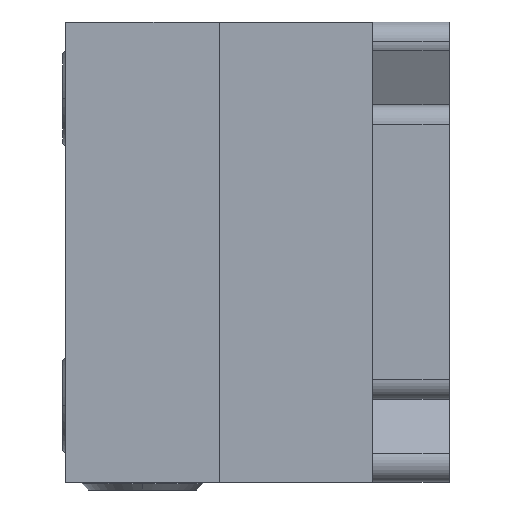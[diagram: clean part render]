
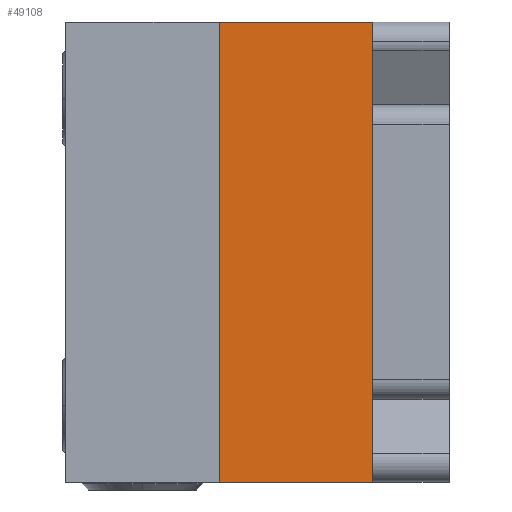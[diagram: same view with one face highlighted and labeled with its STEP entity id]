
A CAD part, left-side view. The second image highlights one B-rep face of the part: STEP entity #49108.
In plain terms, the highlighted planar face has unit normal (-1, 0, 0) as drawn and (0, 0, -1) by its records, which use the part's own axes.
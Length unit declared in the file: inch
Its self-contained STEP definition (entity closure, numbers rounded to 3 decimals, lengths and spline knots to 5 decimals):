
#623 = PLANE ( 'NONE',  #60691 ) ;
#624 = CARTESIAN_POINT ( 'NONE',  ( 0., 0.5, -0.375 ) ) ;
#625 = DIRECTION ( 'NONE',  ( 0., 0., 1. ) ) ;
#626 = DIRECTION ( 'NONE',  ( 1., 0., 0. ) ) ;
#3907 = FACE_OUTER_BOUND ( 'NONE', #23152, .T. ) ;
#3957 = EDGE_CURVE ( 'NONE', #9457, #9459, #39709, .T. ) ;
#4237 = EDGE_CURVE ( 'NONE', #10752, #9459, #52519, .T. ) ;
#4240 = EDGE_CURVE ( 'NONE', #10750, #9457, #52530, .T. ) ;
#4242 = EDGE_CURVE ( 'NONE', #10750, #10752, #52539, .T. ) ;
#9457 = VERTEX_POINT ( 'NONE', #55625 ) ;
#9459 = VERTEX_POINT ( 'NONE', #55623 ) ;
#10750 = VERTEX_POINT ( 'NONE', #29135 ) ;
#10752 = VERTEX_POINT ( 'NONE', #29131 ) ;
#15410 = DIRECTION ( 'NONE',  ( -1., 0., 0. ) ) ;
#15411 = CARTESIAN_POINT ( 'NONE',  ( 0., 0., -0.375 ) ) ;
#19229 = ORIENTED_EDGE ( 'NONE', *, *, #3957, .T. ) ;
#19230 = ORIENTED_EDGE ( 'NONE', *, *, #4237, .F. ) ;
#19231 = ORIENTED_EDGE ( 'NONE', *, *, #4242, .F. ) ;
#19232 = ORIENTED_EDGE ( 'NONE', *, *, #4240, .T. ) ;
#23152 = EDGE_LOOP ( 'NONE', ( #19229, #19230, #19231, #19232 ) ) ;
#29131 = CARTESIAN_POINT ( 'NONE',  ( 0., 0.5, -0.375 ) ) ;
#29135 = CARTESIAN_POINT ( 'NONE',  ( 1.5, 0.5, -0.375 ) ) ;
#39709 = LINE ( 'NONE', #15411, #39711 ) ;
#39711 = VECTOR ( 'NONE', #15410, 39.37008 ) ;
#49108 = ADVANCED_FACE ( 'NONE', ( #3907 ), #623, .F. ) ;
#52519 = LINE ( 'NONE', #63440, #52521 ) ;
#52521 = VECTOR ( 'NONE', #63439, 39.37008 ) ;
#52530 = LINE ( 'NONE', #63432, #52532 ) ;
#52532 = VECTOR ( 'NONE', #63431, 39.37008 ) ;
#52539 = LINE ( 'NONE', #63427, #52541 ) ;
#52541 = VECTOR ( 'NONE', #63426, 39.37008 ) ;
#55623 = CARTESIAN_POINT ( 'NONE',  ( 0., 0., -0.375 ) ) ;
#55625 = CARTESIAN_POINT ( 'NONE',  ( 1.5, 0., -0.375 ) ) ;
#60691 = AXIS2_PLACEMENT_3D ( 'NONE', #624, #625, #626 ) ;
#63426 = DIRECTION ( 'NONE',  ( -1., 0., 0. ) ) ;
#63427 = CARTESIAN_POINT ( 'NONE',  ( 0., 0.5, -0.375 ) ) ;
#63431 = DIRECTION ( 'NONE',  ( 0., -1., 0. ) ) ;
#63432 = CARTESIAN_POINT ( 'NONE',  ( 1.5, 0.5, -0.375 ) ) ;
#63439 = DIRECTION ( 'NONE',  ( 0., -1., 0. ) ) ;
#63440 = CARTESIAN_POINT ( 'NONE',  ( 0., 0.5, -0.375 ) ) ;
